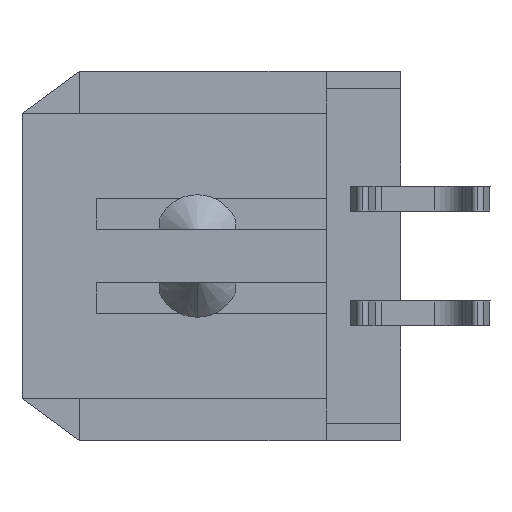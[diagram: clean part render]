
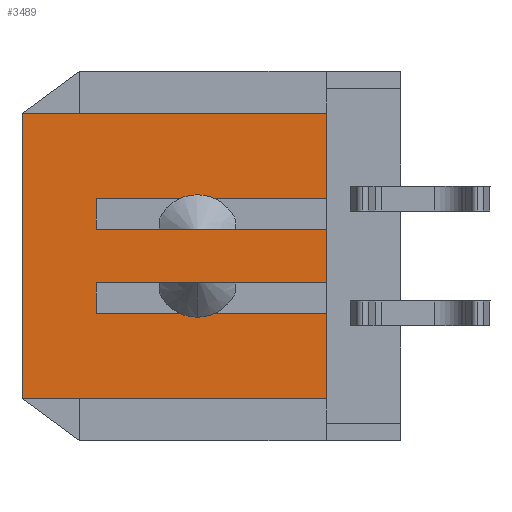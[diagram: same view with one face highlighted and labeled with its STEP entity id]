
A CAD part, left-side view. The second image highlights one B-rep face of the part: STEP entity #3489.
In plain terms, the highlighted planar face has unit normal (-1, 0, 0).
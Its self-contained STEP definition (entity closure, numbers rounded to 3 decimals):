
#5 = ORIENTED_EDGE ( 'NONE', *, *, #6109, .F. ) ;
#27 = CARTESIAN_POINT ( 'NONE',  ( 1.124, 24.29, 1.5 ) ) ;
#136 = VECTOR ( 'NONE', #6515, 1000. ) ;
#205 = CARTESIAN_POINT ( 'NONE',  ( 1.124, 16.344, -0.7 ) ) ;
#257 = CARTESIAN_POINT ( 'NONE',  ( 1.124, 24.29, -1.5 ) ) ;
#266 = VECTOR ( 'NONE', #4001, 1000. ) ;
#508 = VERTEX_POINT ( 'NONE', #5097 ) ;
#583 = DIRECTION ( 'NONE',  ( 0., 1., 0. ) ) ;
#753 = VERTEX_POINT ( 'NONE', #4375 ) ;
#769 = DIRECTION ( 'NONE',  ( 0., 0., -1. ) ) ;
#784 = DIRECTION ( 'NONE',  ( 0., 0., 1. ) ) ;
#796 = CARTESIAN_POINT ( 'NONE',  ( 1.124, 22.344, 1.5 ) ) ;
#802 = LINE ( 'NONE', #257, #136 ) ;
#805 = VERTEX_POINT ( 'NONE', #1428 ) ;
#895 = EDGE_CURVE ( 'NONE', #3044, #753, #4982, .T. ) ;
#908 = VECTOR ( 'NONE', #784, 1000. ) ;
#920 = DIRECTION ( 'NONE',  ( 0., -1., 0. ) ) ;
#1111 = DIRECTION ( 'NONE',  ( 0., 0., 1. ) ) ;
#1125 = CARTESIAN_POINT ( 'NONE',  ( 1.124, 24.29, -3.725 ) ) ;
#1321 = PLANE ( 'NONE',  #4694 ) ;
#1362 = ORIENTED_EDGE ( 'NONE', *, *, #6620, .T. ) ;
#1428 = CARTESIAN_POINT ( 'NONE',  ( 1.124, 22.344, 0.7 ) ) ;
#1496 = EDGE_CURVE ( 'NONE', #5118, #4683, #3667, .T. ) ;
#1598 = LINE ( 'NONE', #2613, #4137 ) ;
#1851 = VECTOR ( 'NONE', #6571, 1000. ) ;
#1886 = ORIENTED_EDGE ( 'NONE', *, *, #2546, .T. ) ;
#1928 = CARTESIAN_POINT ( 'NONE',  ( 1.124, 24.29, -3.725 ) ) ;
#1971 = VECTOR ( 'NONE', #3224, 1000. ) ;
#2160 = CARTESIAN_POINT ( 'NONE',  ( 1.124, 24.29, 3.725 ) ) ;
#2208 = LINE ( 'NONE', #3383, #5536 ) ;
#2219 = EDGE_CURVE ( 'NONE', #805, #753, #5280, .T. ) ;
#2241 = VECTOR ( 'NONE', #4997, 1000. ) ;
#2342 = FACE_OUTER_BOUND ( 'NONE', #3537, .T. ) ;
#2384 = LINE ( 'NONE', #5413, #908 ) ;
#2446 = CARTESIAN_POINT ( 'NONE',  ( 1.124, 16.344, 3.725 ) ) ;
#2546 = EDGE_CURVE ( 'NONE', #2696, #3556, #6064, .T. ) ;
#2613 = CARTESIAN_POINT ( 'NONE',  ( 1.124, 0., -0.7 ) ) ;
#2635 = ORIENTED_EDGE ( 'NONE', *, *, #3069, .T. ) ;
#2696 = VERTEX_POINT ( 'NONE', #796 ) ;
#2936 = LINE ( 'NONE', #3511, #2241 ) ;
#3044 = VERTEX_POINT ( 'NONE', #205 ) ;
#3069 = EDGE_CURVE ( 'NONE', #6401, #508, #2384, .T. ) ;
#3224 = DIRECTION ( 'NONE',  ( 0., -1., 0. ) ) ;
#3333 = ORIENTED_EDGE ( 'NONE', *, *, #6437, .T. ) ;
#3353 = CARTESIAN_POINT ( 'NONE',  ( 1.124, 24.29, 3.725 ) ) ;
#3383 = CARTESIAN_POINT ( 'NONE',  ( 1.124, 24.29, 3.725 ) ) ;
#3489 = ADVANCED_FACE ( 'NONE', ( #2342 ), #1321, .T. ) ;
#3511 = CARTESIAN_POINT ( 'NONE',  ( 1.124, 22.344, 3.725 ) ) ;
#3537 = EDGE_LOOP ( 'NONE', ( #4883, #6009, #1886, #3697, #5378, #4777, #6597, #1362, #3333, #2635, #5, #5956 ) ) ;
#3553 = VERTEX_POINT ( 'NONE', #6420 ) ;
#3556 = VERTEX_POINT ( 'NONE', #4437 ) ;
#3565 = CARTESIAN_POINT ( 'NONE',  ( 1.124, 24.29, 3.725 ) ) ;
#3667 = LINE ( 'NONE', #1125, #4667 ) ;
#3697 = ORIENTED_EDGE ( 'NONE', *, *, #3976, .T. ) ;
#3804 = VECTOR ( 'NONE', #583, 1000. ) ;
#3922 = CARTESIAN_POINT ( 'NONE',  ( 1.124, 16.344, -3.725 ) ) ;
#3976 = EDGE_CURVE ( 'NONE', #3556, #3553, #6179, .T. ) ;
#4001 = DIRECTION ( 'NONE',  ( 0., 0., 1. ) ) ;
#4137 = VECTOR ( 'NONE', #4615, 1000. ) ;
#4182 = DIRECTION ( 'NONE',  ( 0., -1., 0. ) ) ;
#4351 = VECTOR ( 'NONE', #920, 1000. ) ;
#4375 = CARTESIAN_POINT ( 'NONE',  ( 1.124, 16.344, 0.7 ) ) ;
#4437 = CARTESIAN_POINT ( 'NONE',  ( 1.124, 16.344, 1.5 ) ) ;
#4501 = VERTEX_POINT ( 'NONE', #2160 ) ;
#4517 = CARTESIAN_POINT ( 'NONE',  ( 1.124, 16.344, 3.725 ) ) ;
#4615 = DIRECTION ( 'NONE',  ( 0., 1., 0. ) ) ;
#4667 = VECTOR ( 'NONE', #4182, 1000. ) ;
#4683 = VERTEX_POINT ( 'NONE', #3922 ) ;
#4694 = AXIS2_PLACEMENT_3D ( 'NONE', #3353, #4905, #5404 ) ;
#4745 = CARTESIAN_POINT ( 'NONE',  ( 1.124, 0., 0.7 ) ) ;
#4777 = ORIENTED_EDGE ( 'NONE', *, *, #6194, .T. ) ;
#4805 = LINE ( 'NONE', #5821, #4894 ) ;
#4881 = EDGE_CURVE ( 'NONE', #805, #2696, #2936, .T. ) ;
#4883 = ORIENTED_EDGE ( 'NONE', *, *, #2219, .F. ) ;
#4894 = VECTOR ( 'NONE', #1111, 1000. ) ;
#4905 = DIRECTION ( 'NONE',  ( -1., 0., 0. ) ) ;
#4982 = LINE ( 'NONE', #4517, #1851 ) ;
#4997 = DIRECTION ( 'NONE',  ( 0., 0., 1. ) ) ;
#5097 = CARTESIAN_POINT ( 'NONE',  ( 1.124, 22.344, -0.7 ) ) ;
#5118 = VERTEX_POINT ( 'NONE', #1928 ) ;
#5212 = LINE ( 'NONE', #3565, #3804 ) ;
#5233 = CARTESIAN_POINT ( 'NONE',  ( 1.124, 16.344, -1.5 ) ) ;
#5247 = VERTEX_POINT ( 'NONE', #5233 ) ;
#5280 = LINE ( 'NONE', #4745, #1971 ) ;
#5378 = ORIENTED_EDGE ( 'NONE', *, *, #6161, .T. ) ;
#5404 = DIRECTION ( 'NONE',  ( 0., 0., 1. ) ) ;
#5413 = CARTESIAN_POINT ( 'NONE',  ( 1.124, 22.344, 3.725 ) ) ;
#5536 = VECTOR ( 'NONE', #769, 1000. ) ;
#5821 = CARTESIAN_POINT ( 'NONE',  ( 1.124, 16.344, 3.725 ) ) ;
#5956 = ORIENTED_EDGE ( 'NONE', *, *, #895, .T. ) ;
#6009 = ORIENTED_EDGE ( 'NONE', *, *, #4881, .T. ) ;
#6064 = LINE ( 'NONE', #27, #4351 ) ;
#6109 = EDGE_CURVE ( 'NONE', #3044, #508, #1598, .T. ) ;
#6161 = EDGE_CURVE ( 'NONE', #3553, #4501, #5212, .T. ) ;
#6179 = LINE ( 'NONE', #2446, #266 ) ;
#6194 = EDGE_CURVE ( 'NONE', #4501, #5118, #2208, .T. ) ;
#6401 = VERTEX_POINT ( 'NONE', #6689 ) ;
#6420 = CARTESIAN_POINT ( 'NONE',  ( 1.124, 16.344, 3.725 ) ) ;
#6437 = EDGE_CURVE ( 'NONE', #5247, #6401, #802, .T. ) ;
#6515 = DIRECTION ( 'NONE',  ( 0., 1., 0. ) ) ;
#6571 = DIRECTION ( 'NONE',  ( 0., 0., 1. ) ) ;
#6597 = ORIENTED_EDGE ( 'NONE', *, *, #1496, .T. ) ;
#6620 = EDGE_CURVE ( 'NONE', #4683, #5247, #4805, .T. ) ;
#6689 = CARTESIAN_POINT ( 'NONE',  ( 1.124, 22.344, -1.5 ) ) ;
